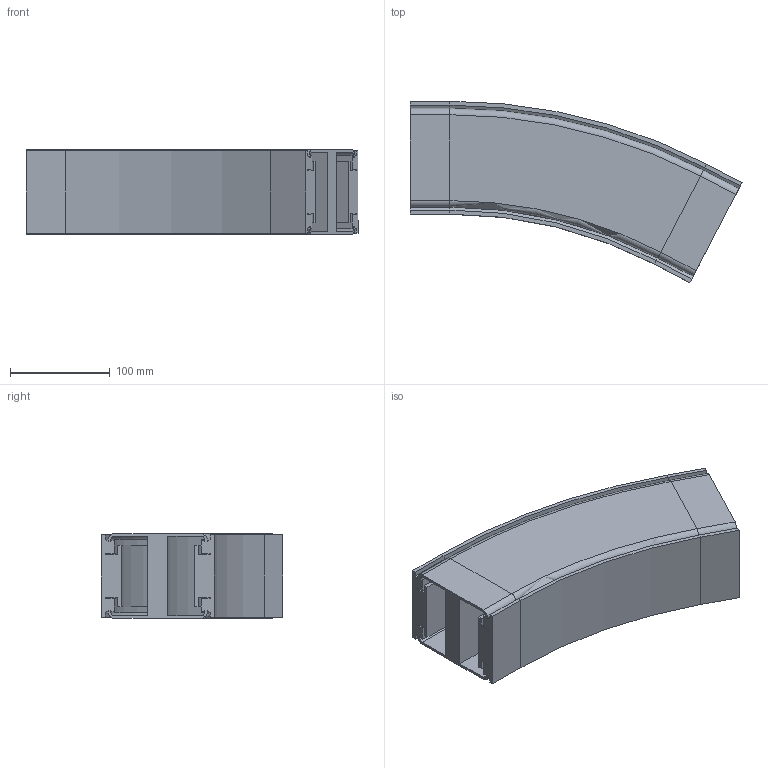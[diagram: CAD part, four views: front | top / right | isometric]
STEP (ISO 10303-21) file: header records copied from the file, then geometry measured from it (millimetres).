
FILE_DESCRIPTION (( 'STEP AP214' ), '1' );
FILE_NAME ('VC.85 Verticale bochtsectie.R500 27,5.STEP', '2017-02-08T08:13:14', ( '' ), ( '' ), 'SwSTEP 2.0', 'SolidWorks 2016', '' );
FILE_SCHEMA (( 'AUTOMOTIVE_DESIGN' ));
Length unit declared in the file: millimetre
Products named in the file (1): VC.85 Verticale bochtsectie.R500 27,5
Bounding box: 332.44 x 181.58 x 85 mm (x, y, z)
Volume: 1525399.5 mm3; surface area: 357901.7 mm2
Topology: 1 solids, 1 shells, 206 faces, 476 edges, 272 vertices
Faces by surface type: plane 144, cylinder 46, cone 8, torus 8
Entity records: 5674 total; most frequent: DIRECTION 990, CARTESIAN_POINT 955, ORIENTED_EDGE 952, EDGE_CURVE 476, LINE 376, VECTOR 376, AXIS2_PLACEMENT_3D 307, VERTEX_POINT 272
